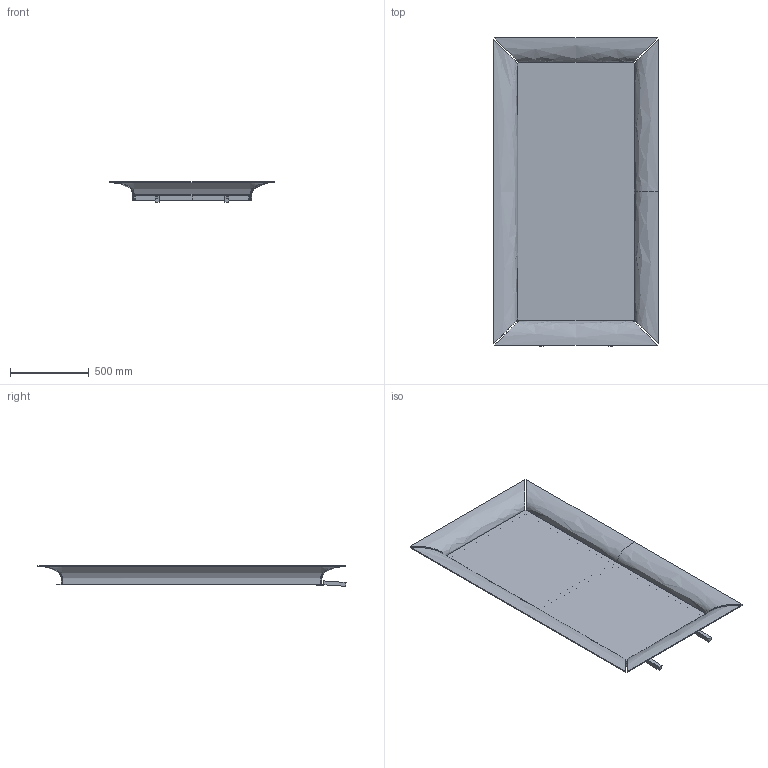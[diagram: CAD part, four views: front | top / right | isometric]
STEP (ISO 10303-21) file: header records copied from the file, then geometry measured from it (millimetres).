
FILE_DESCRIPTION(/* description */ (''),/* implementation_level */ '2;1');
FILE_NAME(/* name */ '400x - Caadre - 105x195 da terra',/* time_stamp */ '2010-11-02T14:27:57+01:00',/* author */ (''),/* organization */ (''),/* preprocessor_version */ 'ST-DEVELOPER v10',/* originating_system */ '',/* authorisation */ '');
FILE_SCHEMA (('CONFIG_CONTROL_DESIGN'));
Length unit declared in the file: centimetre
Products named in the file (1): 1
Bounding box: 1046 x 1951.66 x 131.13 mm (x, y, z)
Volume: 19131167.5 mm3; surface area: 5512586.5 mm2
Topology: 11 solids, 11 shells, 106 faces, 240 edges, 152 vertices
Faces by surface type: bspline 56, plane 50
Entity records: 4720 total; most frequent: CARTESIAN_POINT 2968, ORIENTED_EDGE 480, EDGE_CURVE 240, B_SPLINE_CURVE_WITH_KNOTS 240, VERTEX_POINT 152, EDGE_LOOP 108, ADVANCED_FACE 106, FACE_OUTER_BOUND 106
